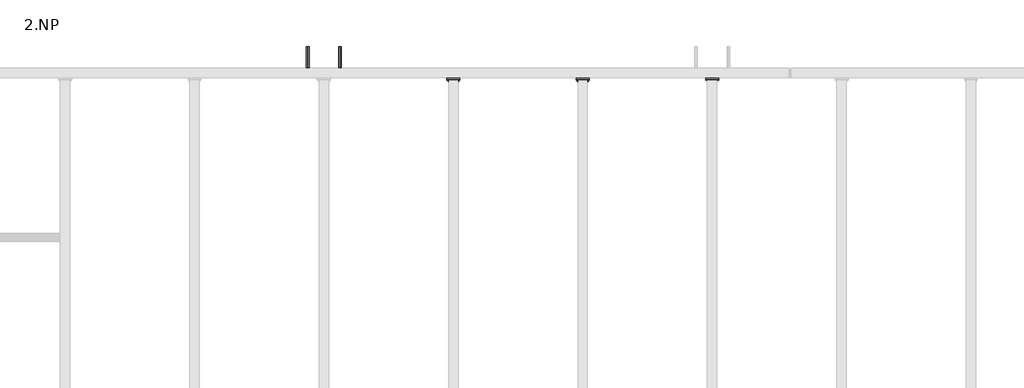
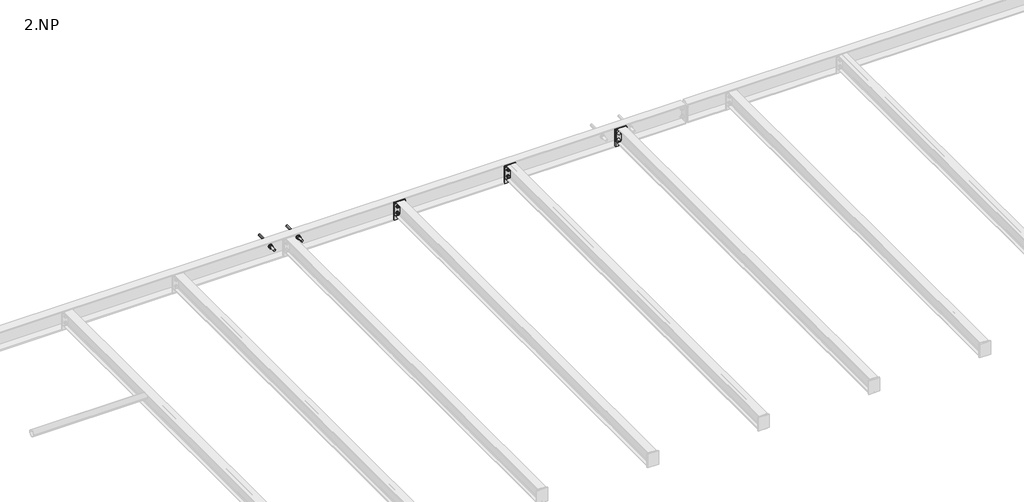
# One storey, part 10 of 18: 13 proxies.
"""IFC4 building model written with IfcOpenShell, lengths in millimetres."""

from ifc_helpers import new_model, si_unit, point, frame, frame_2d, origin, place, context, project, spatial, polyline, circle_curve, trimmed, segment, composite_curve, outline, extrude, element, save

model = new_model("IFC4")

# Units and contexts
model_context = context("Model", 3, world=origin())
ifc_project = project(units=[si_unit("LENGTHUNIT", "METRE", prefix="MILLI")], contexts=[model_context])

# Site, building, storey
site = spatial("IfcSite", under=ifc_project)
building = spatial("IfcBuilding", under=site)
storey = spatial("IfcBuildingStorey", under=building, Name="2.NP", Elevation=3000.0)

# Proxies
placement = place(None, origin())
element("IfcBuildingElementProxy", 1, Name="PLECH", ObjectType="PLECH", at=placement, inside=storey, context=model_context, shape_type="SweptSolid", body=[
    extrude(outline(polyline([(4000.0, 3775.0), (4100.0, 3775.0), (4100.0, 3767.0), (4000.0, 3767.0), (4000.0, 3775.0)])), frame((0.0, 0.0, 3175.0), z_axis=(0.0, 0.0, 1.0), x_axis=(1.0, 0.0, 0.0)), (0.0, 0.0, 1.0), 110.0),
])
element("IfcBuildingElementProxy", 2, Name="PLECH", ObjectType="PLECH", at=placement, inside=storey, context=model_context, shape_type="SweptSolid", body=[
    extrude(outline(polyline([(5000.0, 3775.0), (5100.0, 3775.0), (5100.0, 3767.0), (5000.0, 3767.0), (5000.0, 3775.0)])), frame((0.0, 0.0, 3175.0), z_axis=(0.0, 0.0, 1.0), x_axis=(1.0, 0.0, 0.0)), (0.0, 0.0, 1.0), 110.0),
])
element("IfcBuildingElementProxy", 3, Name="PLECH", ObjectType="PLECH", at=placement, inside=storey, context=model_context, shape_type="SweptSolid", body=[
    extrude(outline(polyline([(6000.0, 3775.0), (6100.0, 3775.0), (6100.0, 3767.0), (6000.0, 3767.0), (6000.0, 3775.0)])), frame((0.0, 0.0, 3175.0), z_axis=(0.0, 0.0, 1.0), x_axis=(1.0, 0.0, 0.0)), (0.0, 0.0, 1.0), 110.0),
])
element("IfcBuildingElementProxy", 4, Name="PLECH", ObjectType="PLECH", at=placement, inside=storey, context=model_context, shape_type="SweptSolid", body=[
    extrude(outline(composite_curve([segment(polyline([(3785.0, 3289.5), (3834.5, 3289.5)]), True, "CONTINUOUS"), segment(trimmed(circle_curve(frame_2d((3854.5, 3289.5)), 20.0), [point((3834.5, 3289.5))], [point((3854.5, 3269.5))], True, "CARTESIAN"), True, "CONTINUOUS"), segment(polyline([(3854.5, 3269.5), (3854.5, 3150.5)]), True, "CONTINUOUS"), segment(trimmed(circle_curve(frame_2d((3854.5, 3130.5)), 20.0), [point((3854.5, 3150.5))], [point((3834.5, 3130.5))], True, "CARTESIAN"), True, "CONTINUOUS"), segment(polyline([(3834.5, 3130.5), (3785.0, 3130.5), (3785.0, 3289.5)]), True, "CONTINUOUS")], self_intersect=False)), frame((3047.0, 0.0, 0.0), z_axis=(1.0, 0.0, 0.0), x_axis=(0.0, 1.0, 0.0)), (0.0, 0.0, 1.0), 6.0),
])
element("IfcBuildingElementProxy", 5, Name="PLECH", ObjectType="PLECH", at=placement, inside=storey, context=model_context, shape_type="SweptSolid", body=[
    extrude(outline(polyline([(4000.0, 3785.0), (4100.0, 3785.0), (4100.0, 3775.0), (4000.0, 3775.0), (4000.0, 3785.0)])), frame((0.0, 0.0, 3128.0), z_axis=(0.0, 0.0, 1.0), x_axis=(1.0, 0.0, 0.0)), (0.0, 0.0, 1.0), 164.0),
])
element("IfcBuildingElementProxy", 6, Name="PLECH", ObjectType="PLECH", at=placement, inside=storey, context=model_context, shape_type="SweptSolid", body=[
    extrude(outline(composite_curve([segment(polyline([(3785.0, 3289.5), (3834.5, 3289.5)]), True, "CONTINUOUS"), segment(trimmed(circle_curve(frame_2d((3854.5, 3289.5)), 20.0), [point((3834.5, 3289.5))], [point((3854.5, 3269.5))], True, "CARTESIAN"), True, "CONTINUOUS"), segment(polyline([(3854.5, 3269.5), (3854.5, 3150.5)]), True, "CONTINUOUS"), segment(trimmed(circle_curve(frame_2d((3854.5, 3130.5)), 20.0), [point((3854.5, 3150.5))], [point((3834.5, 3130.5))], True, "CARTESIAN"), True, "CONTINUOUS"), segment(polyline([(3834.5, 3130.5), (3785.0, 3130.5), (3785.0, 3289.5)]), True, "CONTINUOUS")], self_intersect=False)), frame((4047.0, 0.0, 0.0), z_axis=(1.0, 0.0, 0.0), x_axis=(0.0, 1.0, 0.0)), (0.0, 0.0, 1.0), 6.0),
])
element("IfcBuildingElementProxy", 7, Name="PLECH", ObjectType="PLECH", at=placement, inside=storey, context=model_context, shape_type="SweptSolid", body=[
    extrude(outline(polyline([(5000.0, 3785.0), (5100.0, 3785.0), (5100.0, 3775.0), (5000.0, 3775.0), (5000.0, 3785.0)])), frame((0.0, 0.0, 3128.0), z_axis=(0.0, 0.0, 1.0), x_axis=(1.0, 0.0, 0.0)), (0.0, 0.0, 1.0), 164.0),
])
element("IfcBuildingElementProxy", 8, Name="PLECH", ObjectType="PLECH", at=placement, inside=storey, context=model_context, shape_type="SweptSolid", body=[
    extrude(outline(composite_curve([segment(polyline([(3785.0, 3289.5), (3834.5, 3289.5)]), True, "CONTINUOUS"), segment(trimmed(circle_curve(frame_2d((3854.5, 3289.5)), 20.0), [point((3834.5, 3289.5))], [point((3854.5, 3269.5))], True, "CARTESIAN"), True, "CONTINUOUS"), segment(polyline([(3854.5, 3269.5), (3854.5, 3150.5)]), True, "CONTINUOUS"), segment(trimmed(circle_curve(frame_2d((3854.5, 3130.5)), 20.0), [point((3854.5, 3150.5))], [point((3834.5, 3130.5))], True, "CARTESIAN"), True, "CONTINUOUS"), segment(polyline([(3834.5, 3130.5), (3785.0, 3130.5), (3785.0, 3289.5)]), True, "CONTINUOUS")], self_intersect=False)), frame((5047.0, 0.0, 0.0), z_axis=(1.0, 0.0, 0.0), x_axis=(0.0, 1.0, 0.0)), (0.0, 0.0, 1.0), 6.0),
])
element("IfcBuildingElementProxy", 9, Name="PLECH", ObjectType="PLECH", at=placement, inside=storey, context=model_context, shape_type="SweptSolid", body=[
    extrude(outline(polyline([(6000.0, 3785.0), (6100.0, 3785.0), (6100.0, 3775.0), (6000.0, 3775.0), (6000.0, 3785.0)])), frame((0.0, 0.0, 3128.0), z_axis=(0.0, 0.0, 1.0), x_axis=(1.0, 0.0, 0.0)), (0.0, 0.0, 1.0), 164.0),
])
element("IfcBuildingElementProxy", 10, Name="PLECH", ObjectType="PLECH", at=placement, inside=storey, context=model_context, shape_type="SweptSolid", body=[
    extrude(outline(composite_curve([segment(polyline([(3785.0, 3289.5), (3834.5, 3289.5)]), True, "CONTINUOUS"), segment(trimmed(circle_curve(frame_2d((3854.5, 3289.5)), 20.0), [point((3834.5, 3289.5))], [point((3854.5, 3269.5))], True, "CARTESIAN"), True, "CONTINUOUS"), segment(polyline([(3854.5, 3269.5), (3854.5, 3150.5)]), True, "CONTINUOUS"), segment(trimmed(circle_curve(frame_2d((3854.5, 3130.5)), 20.0), [point((3854.5, 3150.5))], [point((3834.5, 3130.5))], True, "CARTESIAN"), True, "CONTINUOUS"), segment(polyline([(3834.5, 3130.5), (3785.0, 3130.5), (3785.0, 3289.5)]), True, "CONTINUOUS")], self_intersect=False)), frame((6047.0, 0.0, 0.0), z_axis=(1.0, 0.0, 0.0), x_axis=(0.0, 1.0, 0.0)), (0.0, 0.0, 1.0), 6.0),
])
element("IfcBuildingElementProxy", 11, Name="Bolt assembly", ObjectType="Bolt assembly", at=placement, inside=storey, context=model_context, shape_type="SweptSolid", body=[
    extrude(outline(composite_curve([segment(trimmed(circle_curve(frame_2d((3260.0, 4020.0)), 6.5), [point((3260.0, 4026.5))], [point((3260.0, 4013.5))], False, "CARTESIAN"), True, "CONTINUOUS"), segment(trimmed(circle_curve(frame_2d((3260.0, 4020.0)), 6.5), [point((3260.0, 4013.5))], [point((3260.0, 4026.5))], False, "CARTESIAN"), True, "CONTINUOUS")], self_intersect=False)), frame((0.0, 3774.9, 0.0), z_axis=(0.0, 1.0, 0.0), x_axis=(0.0, 0.0, 1.0)), (0.0, 0.0, 1.0), 10.0),
    extrude(outline(polyline([(3260.0, 4030.9696551), (3269.5, 4025.4848276), (3269.5, 4014.5151724), (3260.0, 4009.0303449), (3250.5, 4014.5151724), (3250.5, 4025.4848276), (3260.0, 4030.9696551)])), frame((0.0, 3787.5, 0.0), z_axis=(0.0, 1.0, 0.0), x_axis=(0.0, 0.0, 1.0)), (0.0, 0.0, 1.0), 7.5),
    extrude(outline(composite_curve([segment(trimmed(circle_curve(frame_2d((3260.0, 4020.0)), 6.0), [point((3260.0, 4026.0))], [point((3260.0, 4014.0))], False, "CARTESIAN"), True, "CONTINUOUS"), segment(trimmed(circle_curve(frame_2d((3260.0, 4020.0)), 6.0), [point((3260.0, 4014.0))], [point((3260.0, 4026.0))], False, "CARTESIAN"), True, "CONTINUOUS")], self_intersect=False)), frame((0.0, 3747.5, 0.0), z_axis=(0.0, 1.0, 0.0), x_axis=(0.0, 0.0, 1.0)), (0.0, 0.0, 1.0), 40.0),
    extrude(outline(composite_curve([segment(trimmed(circle_curve(frame_2d((3260.0, 4020.0)), 12.0), [point((3260.0, 4032.0))], [point((3260.0, 4008.0))], False, "CARTESIAN"), True, "CONTINUOUS"), segment(trimmed(circle_curve(frame_2d((3260.0, 4020.0)), 12.0), [point((3260.0, 4008.0))], [point((3260.0, 4032.0))], False, "CARTESIAN"), True, "CONTINUOUS")], self_intersect=False)), frame((0.0, 3785.0, 0.0), z_axis=(0.0, 1.0, 0.0), x_axis=(0.0, 0.0, 1.0)), (0.0, 0.0, 1.0), 2.5),
    extrude(outline(composite_curve([segment(trimmed(circle_curve(frame_2d((3260.0, 4020.0)), 12.0), [point((3260.0, 4032.0))], [point((3260.0, 4008.0))], False, "CARTESIAN"), True, "CONTINUOUS"), segment(trimmed(circle_curve(frame_2d((3260.0, 4020.0)), 12.0), [point((3260.0, 4008.0))], [point((3260.0, 4032.0))], False, "CARTESIAN"), True, "CONTINUOUS")], self_intersect=False)), frame((0.0, 3764.5, 0.0), z_axis=(0.0, 1.0, 0.0), x_axis=(0.0, 0.0, 1.0)), (0.0, 0.0, 1.0), 2.5),
    extrude(outline(polyline([(3260.0, 4030.9696551), (3269.5, 4025.4848276), (3269.5, 4014.5151724), (3260.0, 4009.0303449), (3250.5, 4014.5151724), (3250.5, 4025.4848276), (3260.0, 4030.9696551)])), frame((0.0, 3754.5, 0.0), z_axis=(0.0, 1.0, 0.0), x_axis=(0.0, 0.0, 1.0)), (0.0, 0.0, 1.0), 10.0),
    extrude(outline(composite_curve([segment(trimmed(circle_curve(frame_2d((3260.0, 4020.0)), 6.5), [point((3260.0, 4026.5))], [point((3260.0, 4013.5))], False, "CARTESIAN"), True, "CONTINUOUS"), segment(trimmed(circle_curve(frame_2d((3260.0, 4020.0)), 6.5), [point((3260.0, 4013.5))], [point((3260.0, 4026.5))], False, "CARTESIAN"), True, "CONTINUOUS")], self_intersect=False)), frame((0.0, 3767.0, 0.0), z_axis=(0.0, 1.0, 0.0), x_axis=(0.0, 0.0, 1.0)), (0.0, 0.0, 1.0), 8.1),
    extrude(outline(composite_curve([segment(trimmed(circle_curve(frame_2d((3260.0, 4080.0)), 6.5), [point((3260.0, 4086.5))], [point((3260.0, 4073.5))], False, "CARTESIAN"), True, "CONTINUOUS"), segment(trimmed(circle_curve(frame_2d((3260.0, 4080.0)), 6.5), [point((3260.0, 4073.5))], [point((3260.0, 4086.5))], False, "CARTESIAN"), True, "CONTINUOUS")], self_intersect=False)), frame((0.0, 3774.9, 0.0), z_axis=(0.0, 1.0, 0.0), x_axis=(0.0, 0.0, 1.0)), (0.0, 0.0, 1.0), 10.0),
    extrude(outline(polyline([(3260.0, 4090.9696551), (3269.5, 4085.4848276), (3269.5, 4074.5151724), (3260.0, 4069.0303449), (3250.5, 4074.5151724), (3250.5, 4085.4848276), (3260.0, 4090.9696551)])), frame((0.0, 3787.5, 0.0), z_axis=(0.0, 1.0, 0.0), x_axis=(0.0, 0.0, 1.0)), (0.0, 0.0, 1.0), 7.5),
    extrude(outline(composite_curve([segment(trimmed(circle_curve(frame_2d((3260.0, 4080.0)), 6.0), [point((3260.0, 4086.0))], [point((3260.0, 4074.0))], False, "CARTESIAN"), True, "CONTINUOUS"), segment(trimmed(circle_curve(frame_2d((3260.0, 4080.0)), 6.0), [point((3260.0, 4074.0))], [point((3260.0, 4086.0))], False, "CARTESIAN"), True, "CONTINUOUS")], self_intersect=False)), frame((0.0, 3747.5, 0.0), z_axis=(0.0, 1.0, 0.0), x_axis=(0.0, 0.0, 1.0)), (0.0, 0.0, 1.0), 40.0),
    extrude(outline(composite_curve([segment(trimmed(circle_curve(frame_2d((3260.0, 4080.0)), 12.0), [point((3260.0, 4092.0))], [point((3260.0, 4068.0))], False, "CARTESIAN"), True, "CONTINUOUS"), segment(trimmed(circle_curve(frame_2d((3260.0, 4080.0)), 12.0), [point((3260.0, 4068.0))], [point((3260.0, 4092.0))], False, "CARTESIAN"), True, "CONTINUOUS")], self_intersect=False)), frame((0.0, 3785.0, 0.0), z_axis=(0.0, 1.0, 0.0), x_axis=(0.0, 0.0, 1.0)), (0.0, 0.0, 1.0), 2.5),
    extrude(outline(composite_curve([segment(trimmed(circle_curve(frame_2d((3260.0, 4080.0)), 12.0), [point((3260.0, 4092.0))], [point((3260.0, 4068.0))], False, "CARTESIAN"), True, "CONTINUOUS"), segment(trimmed(circle_curve(frame_2d((3260.0, 4080.0)), 12.0), [point((3260.0, 4068.0))], [point((3260.0, 4092.0))], False, "CARTESIAN"), True, "CONTINUOUS")], self_intersect=False)), frame((0.0, 3764.5, 0.0), z_axis=(0.0, 1.0, 0.0), x_axis=(0.0, 0.0, 1.0)), (0.0, 0.0, 1.0), 2.5),
    extrude(outline(polyline([(3260.0, 4090.9696551), (3269.5, 4085.4848276), (3269.5, 4074.5151724), (3260.0, 4069.0303449), (3250.5, 4074.5151724), (3250.5, 4085.4848276), (3260.0, 4090.9696551)])), frame((0.0, 3754.5, 0.0), z_axis=(0.0, 1.0, 0.0), x_axis=(0.0, 0.0, 1.0)), (0.0, 0.0, 1.0), 10.0),
    extrude(outline(composite_curve([segment(trimmed(circle_curve(frame_2d((3260.0, 4080.0)), 6.5), [point((3260.0, 4086.5))], [point((3260.0, 4073.5))], False, "CARTESIAN"), True, "CONTINUOUS"), segment(trimmed(circle_curve(frame_2d((3260.0, 4080.0)), 6.5), [point((3260.0, 4073.5))], [point((3260.0, 4086.5))], False, "CARTESIAN"), True, "CONTINUOUS")], self_intersect=False)), frame((0.0, 3767.0, 0.0), z_axis=(0.0, 1.0, 0.0), x_axis=(0.0, 0.0, 1.0)), (0.0, 0.0, 1.0), 8.1),
    extrude(outline(composite_curve([segment(trimmed(circle_curve(frame_2d((3200.0, 4020.0)), 6.5), [point((3200.0, 4026.5))], [point((3200.0, 4013.5))], False, "CARTESIAN"), True, "CONTINUOUS"), segment(trimmed(circle_curve(frame_2d((3200.0, 4020.0)), 6.5), [point((3200.0, 4013.5))], [point((3200.0, 4026.5))], False, "CARTESIAN"), True, "CONTINUOUS")], self_intersect=False)), frame((0.0, 3774.9, 0.0), z_axis=(0.0, 1.0, 0.0), x_axis=(0.0, 0.0, 1.0)), (0.0, 0.0, 1.0), 10.0),
    extrude(outline(polyline([(3200.0, 4030.9696551), (3209.5, 4025.4848276), (3209.5, 4014.5151724), (3200.0, 4009.0303449), (3190.5, 4014.5151724), (3190.5, 4025.4848276), (3200.0, 4030.9696551)])), frame((0.0, 3787.5, 0.0), z_axis=(0.0, 1.0, 0.0), x_axis=(0.0, 0.0, 1.0)), (0.0, 0.0, 1.0), 7.5),
    extrude(outline(composite_curve([segment(trimmed(circle_curve(frame_2d((3200.0, 4020.0)), 6.0), [point((3200.0, 4026.0))], [point((3200.0, 4014.0))], False, "CARTESIAN"), True, "CONTINUOUS"), segment(trimmed(circle_curve(frame_2d((3200.0, 4020.0)), 6.0), [point((3200.0, 4014.0))], [point((3200.0, 4026.0))], False, "CARTESIAN"), True, "CONTINUOUS")], self_intersect=False)), frame((0.0, 3747.5, 0.0), z_axis=(0.0, 1.0, 0.0), x_axis=(0.0, 0.0, 1.0)), (0.0, 0.0, 1.0), 40.0),
    extrude(outline(composite_curve([segment(trimmed(circle_curve(frame_2d((3200.0, 4020.0)), 12.0), [point((3200.0, 4032.0))], [point((3200.0, 4008.0))], False, "CARTESIAN"), True, "CONTINUOUS"), segment(trimmed(circle_curve(frame_2d((3200.0, 4020.0)), 12.0), [point((3200.0, 4008.0))], [point((3200.0, 4032.0))], False, "CARTESIAN"), True, "CONTINUOUS")], self_intersect=False)), frame((0.0, 3785.0, 0.0), z_axis=(0.0, 1.0, 0.0), x_axis=(0.0, 0.0, 1.0)), (0.0, 0.0, 1.0), 2.5),
    extrude(outline(composite_curve([segment(trimmed(circle_curve(frame_2d((3200.0, 4020.0)), 12.0), [point((3200.0, 4032.0))], [point((3200.0, 4008.0))], False, "CARTESIAN"), True, "CONTINUOUS"), segment(trimmed(circle_curve(frame_2d((3200.0, 4020.0)), 12.0), [point((3200.0, 4008.0))], [point((3200.0, 4032.0))], False, "CARTESIAN"), True, "CONTINUOUS")], self_intersect=False)), frame((0.0, 3764.5, 0.0), z_axis=(0.0, 1.0, 0.0), x_axis=(0.0, 0.0, 1.0)), (0.0, 0.0, 1.0), 2.5),
    extrude(outline(polyline([(3200.0, 4030.9696551), (3209.5, 4025.4848276), (3209.5, 4014.5151724), (3200.0, 4009.0303449), (3190.5, 4014.5151724), (3190.5, 4025.4848276), (3200.0, 4030.9696551)])), frame((0.0, 3754.5, 0.0), z_axis=(0.0, 1.0, 0.0), x_axis=(0.0, 0.0, 1.0)), (0.0, 0.0, 1.0), 10.0),
    extrude(outline(composite_curve([segment(trimmed(circle_curve(frame_2d((3200.0, 4020.0)), 6.5), [point((3200.0, 4026.5))], [point((3200.0, 4013.5))], False, "CARTESIAN"), True, "CONTINUOUS"), segment(trimmed(circle_curve(frame_2d((3200.0, 4020.0)), 6.5), [point((3200.0, 4013.5))], [point((3200.0, 4026.5))], False, "CARTESIAN"), True, "CONTINUOUS")], self_intersect=False)), frame((0.0, 3767.0, 0.0), z_axis=(0.0, 1.0, 0.0), x_axis=(0.0, 0.0, 1.0)), (0.0, 0.0, 1.0), 8.1),
    extrude(outline(composite_curve([segment(trimmed(circle_curve(frame_2d((3200.0, 4080.0)), 6.5), [point((3200.0, 4086.5))], [point((3200.0, 4073.5))], False, "CARTESIAN"), True, "CONTINUOUS"), segment(trimmed(circle_curve(frame_2d((3200.0, 4080.0)), 6.5), [point((3200.0, 4073.5))], [point((3200.0, 4086.5))], False, "CARTESIAN"), True, "CONTINUOUS")], self_intersect=False)), frame((0.0, 3774.9, 0.0), z_axis=(0.0, 1.0, 0.0), x_axis=(0.0, 0.0, 1.0)), (0.0, 0.0, 1.0), 10.0),
    extrude(outline(polyline([(3200.0, 4090.9696551), (3209.5, 4085.4848276), (3209.5, 4074.5151724), (3200.0, 4069.0303449), (3190.5, 4074.5151724), (3190.5, 4085.4848276), (3200.0, 4090.9696551)])), frame((0.0, 3787.5, 0.0), z_axis=(0.0, 1.0, 0.0), x_axis=(0.0, 0.0, 1.0)), (0.0, 0.0, 1.0), 7.5),
    extrude(outline(composite_curve([segment(trimmed(circle_curve(frame_2d((3200.0, 4080.0)), 6.0), [point((3200.0, 4086.0))], [point((3200.0, 4074.0))], False, "CARTESIAN"), True, "CONTINUOUS"), segment(trimmed(circle_curve(frame_2d((3200.0, 4080.0)), 6.0), [point((3200.0, 4074.0))], [point((3200.0, 4086.0))], False, "CARTESIAN"), True, "CONTINUOUS")], self_intersect=False)), frame((0.0, 3747.5, 0.0), z_axis=(0.0, 1.0, 0.0), x_axis=(0.0, 0.0, 1.0)), (0.0, 0.0, 1.0), 40.0),
    extrude(outline(composite_curve([segment(trimmed(circle_curve(frame_2d((3200.0, 4080.0)), 12.0), [point((3200.0, 4092.0))], [point((3200.0, 4068.0))], False, "CARTESIAN"), True, "CONTINUOUS"), segment(trimmed(circle_curve(frame_2d((3200.0, 4080.0)), 12.0), [point((3200.0, 4068.0))], [point((3200.0, 4092.0))], False, "CARTESIAN"), True, "CONTINUOUS")], self_intersect=False)), frame((0.0, 3785.0, 0.0), z_axis=(0.0, 1.0, 0.0), x_axis=(0.0, 0.0, 1.0)), (0.0, 0.0, 1.0), 2.5),
    extrude(outline(composite_curve([segment(trimmed(circle_curve(frame_2d((3200.0, 4080.0)), 12.0), [point((3200.0, 4092.0))], [point((3200.0, 4068.0))], False, "CARTESIAN"), True, "CONTINUOUS"), segment(trimmed(circle_curve(frame_2d((3200.0, 4080.0)), 12.0), [point((3200.0, 4068.0))], [point((3200.0, 4092.0))], False, "CARTESIAN"), True, "CONTINUOUS")], self_intersect=False)), frame((0.0, 3764.5, 0.0), z_axis=(0.0, 1.0, 0.0), x_axis=(0.0, 0.0, 1.0)), (0.0, 0.0, 1.0), 2.5),
    extrude(outline(polyline([(3200.0, 4090.9696551), (3209.5, 4085.4848276), (3209.5, 4074.5151724), (3200.0, 4069.0303449), (3190.5, 4074.5151724), (3190.5, 4085.4848276), (3200.0, 4090.9696551)])), frame((0.0, 3754.5, 0.0), z_axis=(0.0, 1.0, 0.0), x_axis=(0.0, 0.0, 1.0)), (0.0, 0.0, 1.0), 10.0),
    extrude(outline(composite_curve([segment(trimmed(circle_curve(frame_2d((3200.0, 4080.0)), 6.5), [point((3200.0, 4086.5))], [point((3200.0, 4073.5))], False, "CARTESIAN"), True, "CONTINUOUS"), segment(trimmed(circle_curve(frame_2d((3200.0, 4080.0)), 6.5), [point((3200.0, 4073.5))], [point((3200.0, 4086.5))], False, "CARTESIAN"), True, "CONTINUOUS")], self_intersect=False)), frame((0.0, 3767.0, 0.0), z_axis=(0.0, 1.0, 0.0), x_axis=(0.0, 0.0, 1.0)), (0.0, 0.0, 1.0), 8.1),
])
element("IfcBuildingElementProxy", 12, Name="Bolt assembly", ObjectType="Bolt assembly", at=placement, inside=storey, context=model_context, shape_type="SweptSolid", body=[
    extrude(outline(composite_curve([segment(trimmed(circle_curve(frame_2d((3260.0, 5020.0)), 6.5), [point((3260.0, 5026.5))], [point((3260.0, 5013.5))], False, "CARTESIAN"), True, "CONTINUOUS"), segment(trimmed(circle_curve(frame_2d((3260.0, 5020.0)), 6.5), [point((3260.0, 5013.5))], [point((3260.0, 5026.5))], False, "CARTESIAN"), True, "CONTINUOUS")], self_intersect=False)), frame((0.0, 3774.9, 0.0), z_axis=(0.0, 1.0, 0.0), x_axis=(0.0, 0.0, 1.0)), (0.0, 0.0, 1.0), 10.0),
    extrude(outline(polyline([(3260.0, 5030.9696551), (3269.5, 5025.4848276), (3269.5, 5014.5151724), (3260.0, 5009.0303449), (3250.5, 5014.5151724), (3250.5, 5025.4848276), (3260.0, 5030.9696551)])), frame((0.0, 3787.5, 0.0), z_axis=(0.0, 1.0, 0.0), x_axis=(0.0, 0.0, 1.0)), (0.0, 0.0, 1.0), 7.5),
    extrude(outline(composite_curve([segment(trimmed(circle_curve(frame_2d((3260.0, 5020.0)), 6.0), [point((3260.0, 5026.0))], [point((3260.0, 5014.0))], False, "CARTESIAN"), True, "CONTINUOUS"), segment(trimmed(circle_curve(frame_2d((3260.0, 5020.0)), 6.0), [point((3260.0, 5014.0))], [point((3260.0, 5026.0))], False, "CARTESIAN"), True, "CONTINUOUS")], self_intersect=False)), frame((0.0, 3747.5, 0.0), z_axis=(0.0, 1.0, 0.0), x_axis=(0.0, 0.0, 1.0)), (0.0, 0.0, 1.0), 40.0),
    extrude(outline(composite_curve([segment(trimmed(circle_curve(frame_2d((3260.0, 5020.0)), 12.0), [point((3260.0, 5032.0))], [point((3260.0, 5008.0))], False, "CARTESIAN"), True, "CONTINUOUS"), segment(trimmed(circle_curve(frame_2d((3260.0, 5020.0)), 12.0), [point((3260.0, 5008.0))], [point((3260.0, 5032.0))], False, "CARTESIAN"), True, "CONTINUOUS")], self_intersect=False)), frame((0.0, 3785.0, 0.0), z_axis=(0.0, 1.0, 0.0), x_axis=(0.0, 0.0, 1.0)), (0.0, 0.0, 1.0), 2.5),
    extrude(outline(composite_curve([segment(trimmed(circle_curve(frame_2d((3260.0, 5020.0)), 12.0), [point((3260.0, 5032.0))], [point((3260.0, 5008.0))], False, "CARTESIAN"), True, "CONTINUOUS"), segment(trimmed(circle_curve(frame_2d((3260.0, 5020.0)), 12.0), [point((3260.0, 5008.0))], [point((3260.0, 5032.0))], False, "CARTESIAN"), True, "CONTINUOUS")], self_intersect=False)), frame((0.0, 3764.5, 0.0), z_axis=(0.0, 1.0, 0.0), x_axis=(0.0, 0.0, 1.0)), (0.0, 0.0, 1.0), 2.5),
    extrude(outline(polyline([(3260.0, 5030.9696551), (3269.5, 5025.4848276), (3269.5, 5014.5151724), (3260.0, 5009.0303449), (3250.5, 5014.5151724), (3250.5, 5025.4848276), (3260.0, 5030.9696551)])), frame((0.0, 3754.5, 0.0), z_axis=(0.0, 1.0, 0.0), x_axis=(0.0, 0.0, 1.0)), (0.0, 0.0, 1.0), 10.0),
    extrude(outline(composite_curve([segment(trimmed(circle_curve(frame_2d((3260.0, 5020.0)), 6.5), [point((3260.0, 5026.5))], [point((3260.0, 5013.5))], False, "CARTESIAN"), True, "CONTINUOUS"), segment(trimmed(circle_curve(frame_2d((3260.0, 5020.0)), 6.5), [point((3260.0, 5013.5))], [point((3260.0, 5026.5))], False, "CARTESIAN"), True, "CONTINUOUS")], self_intersect=False)), frame((0.0, 3767.0, 0.0), z_axis=(0.0, 1.0, 0.0), x_axis=(0.0, 0.0, 1.0)), (0.0, 0.0, 1.0), 8.1),
    extrude(outline(composite_curve([segment(trimmed(circle_curve(frame_2d((3260.0, 5080.0)), 6.5), [point((3260.0, 5086.5))], [point((3260.0, 5073.5))], False, "CARTESIAN"), True, "CONTINUOUS"), segment(trimmed(circle_curve(frame_2d((3260.0, 5080.0)), 6.5), [point((3260.0, 5073.5))], [point((3260.0, 5086.5))], False, "CARTESIAN"), True, "CONTINUOUS")], self_intersect=False)), frame((0.0, 3774.9, 0.0), z_axis=(0.0, 1.0, 0.0), x_axis=(0.0, 0.0, 1.0)), (0.0, 0.0, 1.0), 10.0),
    extrude(outline(polyline([(3260.0, 5090.9696551), (3269.5, 5085.4848276), (3269.5, 5074.5151724), (3260.0, 5069.0303449), (3250.5, 5074.5151724), (3250.5, 5085.4848276), (3260.0, 5090.9696551)])), frame((0.0, 3787.5, 0.0), z_axis=(0.0, 1.0, 0.0), x_axis=(0.0, 0.0, 1.0)), (0.0, 0.0, 1.0), 7.5),
    extrude(outline(composite_curve([segment(trimmed(circle_curve(frame_2d((3260.0, 5080.0)), 6.0), [point((3260.0, 5086.0))], [point((3260.0, 5074.0))], False, "CARTESIAN"), True, "CONTINUOUS"), segment(trimmed(circle_curve(frame_2d((3260.0, 5080.0)), 6.0), [point((3260.0, 5074.0))], [point((3260.0, 5086.0))], False, "CARTESIAN"), True, "CONTINUOUS")], self_intersect=False)), frame((0.0, 3747.5, 0.0), z_axis=(0.0, 1.0, 0.0), x_axis=(0.0, 0.0, 1.0)), (0.0, 0.0, 1.0), 40.0),
    extrude(outline(composite_curve([segment(trimmed(circle_curve(frame_2d((3260.0, 5080.0)), 12.0), [point((3260.0, 5092.0))], [point((3260.0, 5068.0))], False, "CARTESIAN"), True, "CONTINUOUS"), segment(trimmed(circle_curve(frame_2d((3260.0, 5080.0)), 12.0), [point((3260.0, 5068.0))], [point((3260.0, 5092.0))], False, "CARTESIAN"), True, "CONTINUOUS")], self_intersect=False)), frame((0.0, 3785.0, 0.0), z_axis=(0.0, 1.0, 0.0), x_axis=(0.0, 0.0, 1.0)), (0.0, 0.0, 1.0), 2.5),
    extrude(outline(composite_curve([segment(trimmed(circle_curve(frame_2d((3260.0, 5080.0)), 12.0), [point((3260.0, 5092.0))], [point((3260.0, 5068.0))], False, "CARTESIAN"), True, "CONTINUOUS"), segment(trimmed(circle_curve(frame_2d((3260.0, 5080.0)), 12.0), [point((3260.0, 5068.0))], [point((3260.0, 5092.0))], False, "CARTESIAN"), True, "CONTINUOUS")], self_intersect=False)), frame((0.0, 3764.5, 0.0), z_axis=(0.0, 1.0, 0.0), x_axis=(0.0, 0.0, 1.0)), (0.0, 0.0, 1.0), 2.5),
    extrude(outline(polyline([(3260.0, 5090.9696551), (3269.5, 5085.4848276), (3269.5, 5074.5151724), (3260.0, 5069.0303449), (3250.5, 5074.5151724), (3250.5, 5085.4848276), (3260.0, 5090.9696551)])), frame((0.0, 3754.5, 0.0), z_axis=(0.0, 1.0, 0.0), x_axis=(0.0, 0.0, 1.0)), (0.0, 0.0, 1.0), 10.0),
    extrude(outline(composite_curve([segment(trimmed(circle_curve(frame_2d((3260.0, 5080.0)), 6.5), [point((3260.0, 5086.5))], [point((3260.0, 5073.5))], False, "CARTESIAN"), True, "CONTINUOUS"), segment(trimmed(circle_curve(frame_2d((3260.0, 5080.0)), 6.5), [point((3260.0, 5073.5))], [point((3260.0, 5086.5))], False, "CARTESIAN"), True, "CONTINUOUS")], self_intersect=False)), frame((0.0, 3767.0, 0.0), z_axis=(0.0, 1.0, 0.0), x_axis=(0.0, 0.0, 1.0)), (0.0, 0.0, 1.0), 8.1),
    extrude(outline(composite_curve([segment(trimmed(circle_curve(frame_2d((3200.0, 5020.0)), 6.5), [point((3200.0, 5026.5))], [point((3200.0, 5013.5))], False, "CARTESIAN"), True, "CONTINUOUS"), segment(trimmed(circle_curve(frame_2d((3200.0, 5020.0)), 6.5), [point((3200.0, 5013.5))], [point((3200.0, 5026.5))], False, "CARTESIAN"), True, "CONTINUOUS")], self_intersect=False)), frame((0.0, 3774.9, 0.0), z_axis=(0.0, 1.0, 0.0), x_axis=(0.0, 0.0, 1.0)), (0.0, 0.0, 1.0), 10.0),
    extrude(outline(polyline([(3200.0, 5030.9696551), (3209.5, 5025.4848276), (3209.5, 5014.5151724), (3200.0, 5009.0303449), (3190.5, 5014.5151724), (3190.5, 5025.4848276), (3200.0, 5030.9696551)])), frame((0.0, 3787.5, 0.0), z_axis=(0.0, 1.0, 0.0), x_axis=(0.0, 0.0, 1.0)), (0.0, 0.0, 1.0), 7.5),
    extrude(outline(composite_curve([segment(trimmed(circle_curve(frame_2d((3200.0, 5020.0)), 6.0), [point((3200.0, 5026.0))], [point((3200.0, 5014.0))], False, "CARTESIAN"), True, "CONTINUOUS"), segment(trimmed(circle_curve(frame_2d((3200.0, 5020.0)), 6.0), [point((3200.0, 5014.0))], [point((3200.0, 5026.0))], False, "CARTESIAN"), True, "CONTINUOUS")], self_intersect=False)), frame((0.0, 3747.5, 0.0), z_axis=(0.0, 1.0, 0.0), x_axis=(0.0, 0.0, 1.0)), (0.0, 0.0, 1.0), 40.0),
    extrude(outline(composite_curve([segment(trimmed(circle_curve(frame_2d((3200.0, 5020.0)), 12.0), [point((3200.0, 5032.0))], [point((3200.0, 5008.0))], False, "CARTESIAN"), True, "CONTINUOUS"), segment(trimmed(circle_curve(frame_2d((3200.0, 5020.0)), 12.0), [point((3200.0, 5008.0))], [point((3200.0, 5032.0))], False, "CARTESIAN"), True, "CONTINUOUS")], self_intersect=False)), frame((0.0, 3785.0, 0.0), z_axis=(0.0, 1.0, 0.0), x_axis=(0.0, 0.0, 1.0)), (0.0, 0.0, 1.0), 2.5),
    extrude(outline(composite_curve([segment(trimmed(circle_curve(frame_2d((3200.0, 5020.0)), 12.0), [point((3200.0, 5032.0))], [point((3200.0, 5008.0))], False, "CARTESIAN"), True, "CONTINUOUS"), segment(trimmed(circle_curve(frame_2d((3200.0, 5020.0)), 12.0), [point((3200.0, 5008.0))], [point((3200.0, 5032.0))], False, "CARTESIAN"), True, "CONTINUOUS")], self_intersect=False)), frame((0.0, 3764.5, 0.0), z_axis=(0.0, 1.0, 0.0), x_axis=(0.0, 0.0, 1.0)), (0.0, 0.0, 1.0), 2.5),
    extrude(outline(polyline([(3200.0, 5030.9696551), (3209.5, 5025.4848276), (3209.5, 5014.5151724), (3200.0, 5009.0303449), (3190.5, 5014.5151724), (3190.5, 5025.4848276), (3200.0, 5030.9696551)])), frame((0.0, 3754.5, 0.0), z_axis=(0.0, 1.0, 0.0), x_axis=(0.0, 0.0, 1.0)), (0.0, 0.0, 1.0), 10.0),
    extrude(outline(composite_curve([segment(trimmed(circle_curve(frame_2d((3200.0, 5020.0)), 6.5), [point((3200.0, 5026.5))], [point((3200.0, 5013.5))], False, "CARTESIAN"), True, "CONTINUOUS"), segment(trimmed(circle_curve(frame_2d((3200.0, 5020.0)), 6.5), [point((3200.0, 5013.5))], [point((3200.0, 5026.5))], False, "CARTESIAN"), True, "CONTINUOUS")], self_intersect=False)), frame((0.0, 3767.0, 0.0), z_axis=(0.0, 1.0, 0.0), x_axis=(0.0, 0.0, 1.0)), (0.0, 0.0, 1.0), 8.1),
    extrude(outline(composite_curve([segment(trimmed(circle_curve(frame_2d((3200.0, 5080.0)), 6.5), [point((3200.0, 5086.5))], [point((3200.0, 5073.5))], False, "CARTESIAN"), True, "CONTINUOUS"), segment(trimmed(circle_curve(frame_2d((3200.0, 5080.0)), 6.5), [point((3200.0, 5073.5))], [point((3200.0, 5086.5))], False, "CARTESIAN"), True, "CONTINUOUS")], self_intersect=False)), frame((0.0, 3774.9, 0.0), z_axis=(0.0, 1.0, 0.0), x_axis=(0.0, 0.0, 1.0)), (0.0, 0.0, 1.0), 10.0),
    extrude(outline(polyline([(3200.0, 5090.9696551), (3209.5, 5085.4848276), (3209.5, 5074.5151724), (3200.0, 5069.0303449), (3190.5, 5074.5151724), (3190.5, 5085.4848276), (3200.0, 5090.9696551)])), frame((0.0, 3787.5, 0.0), z_axis=(0.0, 1.0, 0.0), x_axis=(0.0, 0.0, 1.0)), (0.0, 0.0, 1.0), 7.5),
    extrude(outline(composite_curve([segment(trimmed(circle_curve(frame_2d((3200.0, 5080.0)), 6.0), [point((3200.0, 5086.0))], [point((3200.0, 5074.0))], False, "CARTESIAN"), True, "CONTINUOUS"), segment(trimmed(circle_curve(frame_2d((3200.0, 5080.0)), 6.0), [point((3200.0, 5074.0))], [point((3200.0, 5086.0))], False, "CARTESIAN"), True, "CONTINUOUS")], self_intersect=False)), frame((0.0, 3747.5, 0.0), z_axis=(0.0, 1.0, 0.0), x_axis=(0.0, 0.0, 1.0)), (0.0, 0.0, 1.0), 40.0),
    extrude(outline(composite_curve([segment(trimmed(circle_curve(frame_2d((3200.0, 5080.0)), 12.0), [point((3200.0, 5092.0))], [point((3200.0, 5068.0))], False, "CARTESIAN"), True, "CONTINUOUS"), segment(trimmed(circle_curve(frame_2d((3200.0, 5080.0)), 12.0), [point((3200.0, 5068.0))], [point((3200.0, 5092.0))], False, "CARTESIAN"), True, "CONTINUOUS")], self_intersect=False)), frame((0.0, 3785.0, 0.0), z_axis=(0.0, 1.0, 0.0), x_axis=(0.0, 0.0, 1.0)), (0.0, 0.0, 1.0), 2.5),
    extrude(outline(composite_curve([segment(trimmed(circle_curve(frame_2d((3200.0, 5080.0)), 12.0), [point((3200.0, 5092.0))], [point((3200.0, 5068.0))], False, "CARTESIAN"), True, "CONTINUOUS"), segment(trimmed(circle_curve(frame_2d((3200.0, 5080.0)), 12.0), [point((3200.0, 5068.0))], [point((3200.0, 5092.0))], False, "CARTESIAN"), True, "CONTINUOUS")], self_intersect=False)), frame((0.0, 3764.5, 0.0), z_axis=(0.0, 1.0, 0.0), x_axis=(0.0, 0.0, 1.0)), (0.0, 0.0, 1.0), 2.5),
    extrude(outline(polyline([(3200.0, 5090.9696551), (3209.5, 5085.4848276), (3209.5, 5074.5151724), (3200.0, 5069.0303449), (3190.5, 5074.5151724), (3190.5, 5085.4848276), (3200.0, 5090.9696551)])), frame((0.0, 3754.5, 0.0), z_axis=(0.0, 1.0, 0.0), x_axis=(0.0, 0.0, 1.0)), (0.0, 0.0, 1.0), 10.0),
    extrude(outline(composite_curve([segment(trimmed(circle_curve(frame_2d((3200.0, 5080.0)), 6.5), [point((3200.0, 5086.5))], [point((3200.0, 5073.5))], False, "CARTESIAN"), True, "CONTINUOUS"), segment(trimmed(circle_curve(frame_2d((3200.0, 5080.0)), 6.5), [point((3200.0, 5073.5))], [point((3200.0, 5086.5))], False, "CARTESIAN"), True, "CONTINUOUS")], self_intersect=False)), frame((0.0, 3767.0, 0.0), z_axis=(0.0, 1.0, 0.0), x_axis=(0.0, 0.0, 1.0)), (0.0, 0.0, 1.0), 8.1),
])
element("IfcBuildingElementProxy", 13, Name="Bolt assembly", ObjectType="Bolt assembly", at=placement, inside=storey, context=model_context, shape_type="SweptSolid", body=[
    extrude(outline(polyline([(3210.0, 2934.8149546), (3218.5, 2929.9074773), (3218.5, 2920.0925227), (3210.0, 2915.1850454), (3201.5, 2920.0925227), (3201.5, 2929.9074773), (3210.0, 2934.8149546)])), frame((0.0, 3860.0, 0.0), z_axis=(0.0, 1.0, 0.0), x_axis=(0.0, 0.0, 1.0)), (0.0, 0.0, 1.0), 168.0),
    extrude(outline(composite_curve([segment(trimmed(circle_curve(frame_2d((3210.0, 2925.0)), 10.0), [point((3210.0, 2935.0))], [point((3210.0, 2915.0))], False, "CARTESIAN"), True, "CONTINUOUS"), segment(trimmed(circle_curve(frame_2d((3210.0, 2925.0)), 10.0), [point((3210.0, 2915.0))], [point((3210.0, 2935.0))], False, "CARTESIAN"), True, "CONTINUOUS")], self_intersect=False)), frame((0.0, 3788.0, 0.0), z_axis=(0.0, 1.0, 0.0), x_axis=(0.0, 0.0, 1.0)), (0.0, 0.0, 1.0), 72.0),
    extrude(outline(composite_curve([segment(trimmed(circle_curve(frame_2d((3210.0, 2925.0)), 18.5), [point((3210.0, 2943.5))], [point((3210.0, 2906.5))], False, "CARTESIAN"), True, "CONTINUOUS"), segment(trimmed(circle_curve(frame_2d((3210.0, 2925.0)), 18.5), [point((3210.0, 2906.5))], [point((3210.0, 2943.5))], False, "CARTESIAN"), True, "CONTINUOUS")], self_intersect=False)), frame((0.0, 3851.5, 0.0), z_axis=(0.0, 1.0, 0.0), x_axis=(0.0, 0.0, 1.0)), (0.0, 0.0, 1.0), 3.0),
    extrude(outline(polyline([(3210.0, 2942.3205081), (3225.0, 2933.660254), (3225.0, 2916.339746), (3210.0, 2907.6794919), (3195.0, 2916.339746), (3195.0, 2933.660254), (3210.0, 2942.3205081)])), frame((0.0, 3835.5, 0.0), z_axis=(0.0, 1.0, 0.0), x_axis=(0.0, 0.0, 1.0)), (0.0, 0.0, 1.0), 16.0),
    extrude(outline(composite_curve([segment(trimmed(circle_curve(frame_2d((3210.0, 2925.0)), 11.0), [point((3210.0, 2936.0))], [point((3210.0, 2914.0))], False, "CARTESIAN"), True, "CONTINUOUS"), segment(trimmed(circle_curve(frame_2d((3210.0, 2925.0)), 11.0), [point((3210.0, 2914.0))], [point((3210.0, 2936.0))], False, "CARTESIAN"), True, "CONTINUOUS")], self_intersect=False)), frame((0.0, 3854.4, 0.0), z_axis=(0.0, 1.0, 0.0), x_axis=(0.0, 0.0, 1.0)), (0.0, 0.0, 1.0), 5.6),
    extrude(outline(polyline([(3210.0, 3184.8149546), (3218.5, 3179.9074773), (3218.5, 3170.0925227), (3210.0, 3165.1850454), (3201.5, 3170.0925227), (3201.5, 3179.9074773), (3210.0, 3184.8149546)])), frame((0.0, 3860.0, 0.0), z_axis=(0.0, 1.0, 0.0), x_axis=(0.0, 0.0, 1.0)), (0.0, 0.0, 1.0), 168.0),
    extrude(outline(composite_curve([segment(trimmed(circle_curve(frame_2d((3210.0, 3175.0)), 10.0), [point((3210.0, 3185.0))], [point((3210.0, 3165.0))], False, "CARTESIAN"), True, "CONTINUOUS"), segment(trimmed(circle_curve(frame_2d((3210.0, 3175.0)), 10.0), [point((3210.0, 3165.0))], [point((3210.0, 3185.0))], False, "CARTESIAN"), True, "CONTINUOUS")], self_intersect=False)), frame((0.0, 3788.0, 0.0), z_axis=(0.0, 1.0, 0.0), x_axis=(0.0, 0.0, 1.0)), (0.0, 0.0, 1.0), 72.0),
    extrude(outline(composite_curve([segment(trimmed(circle_curve(frame_2d((3210.0, 3175.0)), 18.5), [point((3210.0, 3193.5))], [point((3210.0, 3156.5))], False, "CARTESIAN"), True, "CONTINUOUS"), segment(trimmed(circle_curve(frame_2d((3210.0, 3175.0)), 18.5), [point((3210.0, 3156.5))], [point((3210.0, 3193.5))], False, "CARTESIAN"), True, "CONTINUOUS")], self_intersect=False)), frame((0.0, 3851.5, 0.0), z_axis=(0.0, 1.0, 0.0), x_axis=(0.0, 0.0, 1.0)), (0.0, 0.0, 1.0), 3.0),
    extrude(outline(polyline([(3210.0, 3192.3205081), (3225.0, 3183.660254), (3225.0, 3166.339746), (3210.0, 3157.6794919), (3195.0, 3166.339746), (3195.0, 3183.660254), (3210.0, 3192.3205081)])), frame((0.0, 3835.5, 0.0), z_axis=(0.0, 1.0, 0.0), x_axis=(0.0, 0.0, 1.0)), (0.0, 0.0, 1.0), 16.0),
    extrude(outline(composite_curve([segment(trimmed(circle_curve(frame_2d((3210.0, 3175.0)), 11.0), [point((3210.0, 3186.0))], [point((3210.0, 3164.0))], False, "CARTESIAN"), True, "CONTINUOUS"), segment(trimmed(circle_curve(frame_2d((3210.0, 3175.0)), 11.0), [point((3210.0, 3164.0))], [point((3210.0, 3186.0))], False, "CARTESIAN"), True, "CONTINUOUS")], self_intersect=False)), frame((0.0, 3854.4, 0.0), z_axis=(0.0, 1.0, 0.0), x_axis=(0.0, 0.0, 1.0)), (0.0, 0.0, 1.0), 5.6),
])

save(model, "model.ifc")
